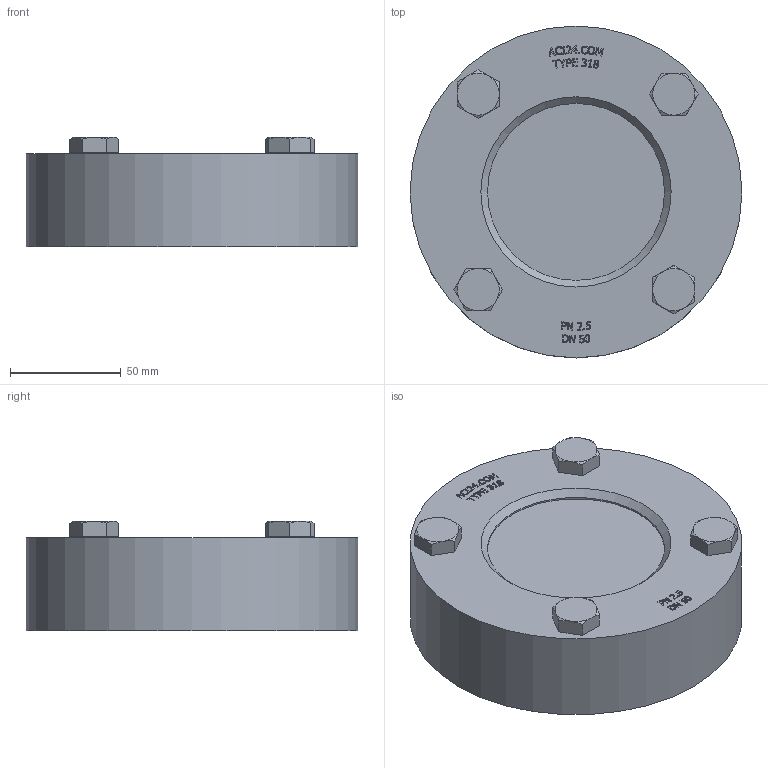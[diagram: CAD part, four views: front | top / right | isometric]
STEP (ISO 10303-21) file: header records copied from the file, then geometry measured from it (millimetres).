
FILE_DESCRIPTION(/* description */ ('ACI Typ 318V DN50'),/* implementation_level */ '2;1');
FILE_NAME(/* name */ 'W:\_Allgemein\Götz-Willms\_Schreibtisch\ACI-318V-50.stp',/* time_stamp */ '2020-02-04T13:10:46+01:00',/* author */ ('Götz'),/* organization */ ('ACI Industriearmaturen GmbH'),/* preprocessor_version */ 'ST-DEVELOPER v16.1',/* originating_system */ 'Autodesk Inventor 2016',/* authorisation */ 'ACI Industriearmaturen GmbH');
FILE_SCHEMA (('CONFIG_CONTROL_DESIGN'));
Length unit declared in the file: centimetre
Products named in the file (1): ACI-318V-50
Bounding box: 150 x 150 x 49.5 mm (x, y, z)
Volume: 672646.8 mm3; surface area: 59384.2 mm2
Topology: 1 solids, 1 shells, 455 faces, 1201 edges, 792 vertices
Faces by surface type: plane 253, bspline 169, cone 26, cylinder 7
Full cylindrical faces by diameter (mm): 17.2 x4, 80 x2, 150 x1
Entity records: 15193 total; most frequent: CARTESIAN_POINT 4733, ORIENTED_EDGE 2384, DIRECTION 1420, EDGE_CURVE 1192, VERTEX_POINT 792, LINE 766, VECTOR 766, EDGE_LOOP 508
